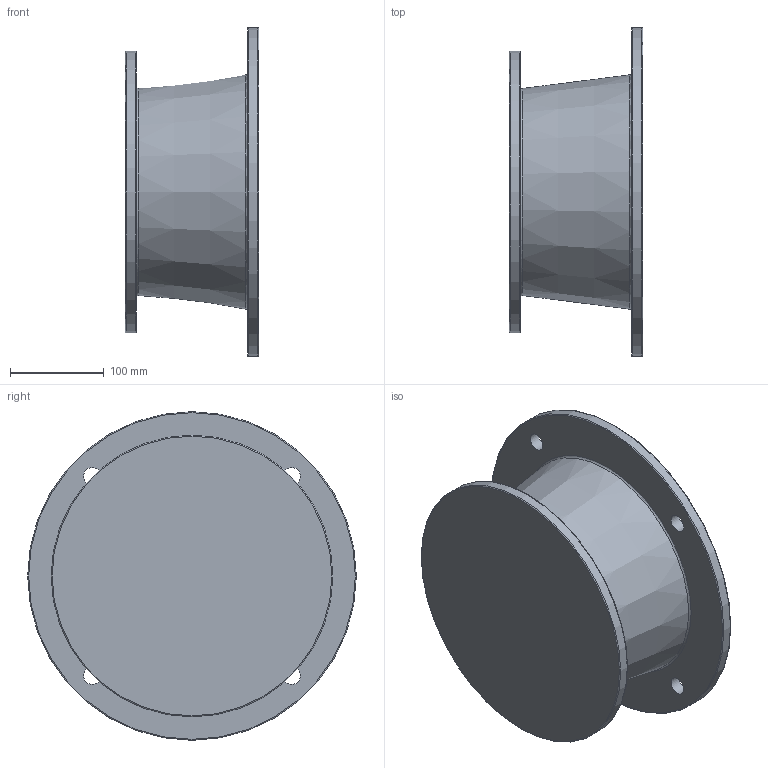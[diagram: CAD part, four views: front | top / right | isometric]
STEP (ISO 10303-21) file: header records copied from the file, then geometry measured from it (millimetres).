
FILE_DESCRIPTION((''),'2;1');
FILE_NAME('F:\PAWEŁ\ZLECENIA\2011 DualSystem\Przekładnie DK\001 Modele\DKAB90_\DK_90_STEP\160_B5_L142,5.stp','2012-08-20T12:02:58',('admin'),(''),'Autodesk Inventor 2009','Autodesk Inventor 2009','');
FILE_SCHEMA(('AUTOMOTIVE_DESIGN { 1 0 10303 214 1 1 1 1 }'));
Length unit declared in the file: millimetre
Products named in the file (1): 160_B5_L142,5
Bounding box: 142.5 x 350 x 350 mm (x, y, z)
Volume: 2200966.9 mm3; surface area: 478290.5 mm2
Topology: 1 solids, 1 shells, 30 faces, 58 edges, 36 vertices
Faces by surface type: plane 11, cylinder 6, bspline 6, torus 5, cone 2
Full cylindrical faces by diameter (mm): 68 x1, 237.904 x1, 250 x1, 300 x1, 350 x1
Entity records: 895 total; most frequent: CARTESIAN_POINT 281, DIRECTION 120, ORIENTED_EDGE 80, EDGE_LOOP 62, AXIS2_PLACEMENT_3D 55, EDGE_CURVE 40, VERTEX_POINT 36, FACE_BOUND 32
